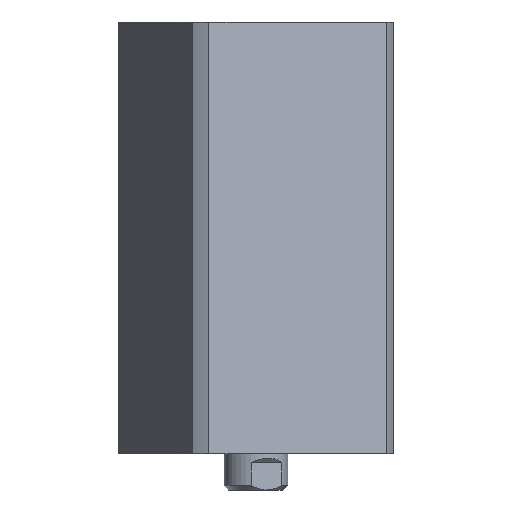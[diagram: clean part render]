
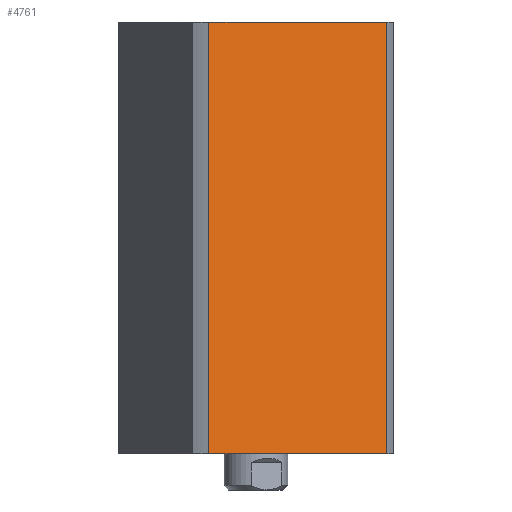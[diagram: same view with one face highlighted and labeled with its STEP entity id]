
A CAD part, left-side view. The second image highlights one B-rep face of the part: STEP entity #4761.
In plain terms, the highlighted planar face has unit normal (-0.924, -0.383, 0) as drawn and (1, 0, 0) by its records, which use the part's own axes.
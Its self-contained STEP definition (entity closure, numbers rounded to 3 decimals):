
#5 = CARTESIAN_POINT ( 'NONE',  ( 24., 21.166, -205. ) ) ;
#250 = DIRECTION ( 'NONE',  ( 0., -1., 0. ) ) ;
#549 = DIRECTION ( 'NONE',  ( 0., 1., 0. ) ) ;
#553 = VECTOR ( 'NONE', #2515, 1000. ) ;
#855 = PLANE ( 'NONE',  #5364 ) ;
#1308 = VERTEX_POINT ( 'NONE', #5811 ) ;
#1688 = CARTESIAN_POINT ( 'NONE',  ( 24., 24., 0. ) ) ;
#1744 = VECTOR ( 'NONE', #2875, 1000. ) ;
#1750 = CARTESIAN_POINT ( 'NONE',  ( 24., 21.166, 95. ) ) ;
#2199 = LINE ( 'NONE', #5, #553 ) ;
#2212 = EDGE_LOOP ( 'NONE', ( #2792, #4436, #7553, #5305 ) ) ;
#2406 = VECTOR ( 'NONE', #549, 1000. ) ;
#2515 = DIRECTION ( 'NONE',  ( 0., 0., -1. ) ) ;
#2613 = EDGE_CURVE ( 'NONE', #6283, #1308, #5057, .T. ) ;
#2792 = ORIENTED_EDGE ( 'NONE', *, *, #2613, .F. ) ;
#2875 = DIRECTION ( 'NONE',  ( 0., 0., 1. ) ) ;
#3877 = VERTEX_POINT ( 'NONE', #1750 ) ;
#3991 = DIRECTION ( 'NONE',  ( -1., 0., 0. ) ) ;
#4436 = ORIENTED_EDGE ( 'NONE', *, *, #6976, .T. ) ;
#4442 = VECTOR ( 'NONE', #5415, 1000. ) ;
#4569 = FACE_OUTER_BOUND ( 'NONE', #2212, .T. ) ;
#4761 = ADVANCED_FACE ( 'NONE', ( #4569 ), #855, .F. ) ;
#5057 = LINE ( 'NONE', #5365, #1744 ) ;
#5305 = ORIENTED_EDGE ( 'NONE', *, *, #7104, .F. ) ;
#5364 = AXIS2_PLACEMENT_3D ( 'NONE', #6466, #3991, #250 ) ;
#5365 = CARTESIAN_POINT ( 'NONE',  ( 24., -21.166, -205. ) ) ;
#5415 = DIRECTION ( 'NONE',  ( 0., 1., 0. ) ) ;
#5524 = CARTESIAN_POINT ( 'NONE',  ( 24., 24., 95. ) ) ;
#5717 = LINE ( 'NONE', #5524, #2406 ) ;
#5792 = CARTESIAN_POINT ( 'NONE',  ( 24., -21.166, 0. ) ) ;
#5811 = CARTESIAN_POINT ( 'NONE',  ( 24., -21.166, 95. ) ) ;
#6283 = VERTEX_POINT ( 'NONE', #5792 ) ;
#6466 = CARTESIAN_POINT ( 'NONE',  ( 24., 24., 95. ) ) ;
#6956 = VERTEX_POINT ( 'NONE', #7894 ) ;
#6976 = EDGE_CURVE ( 'NONE', #6283, #6956, #7754, .T. ) ;
#7104 = EDGE_CURVE ( 'NONE', #1308, #3877, #5717, .T. ) ;
#7211 = EDGE_CURVE ( 'NONE', #3877, #6956, #2199, .T. ) ;
#7553 = ORIENTED_EDGE ( 'NONE', *, *, #7211, .F. ) ;
#7754 = LINE ( 'NONE', #1688, #4442 ) ;
#7894 = CARTESIAN_POINT ( 'NONE',  ( 24., 21.166, 0. ) ) ;
